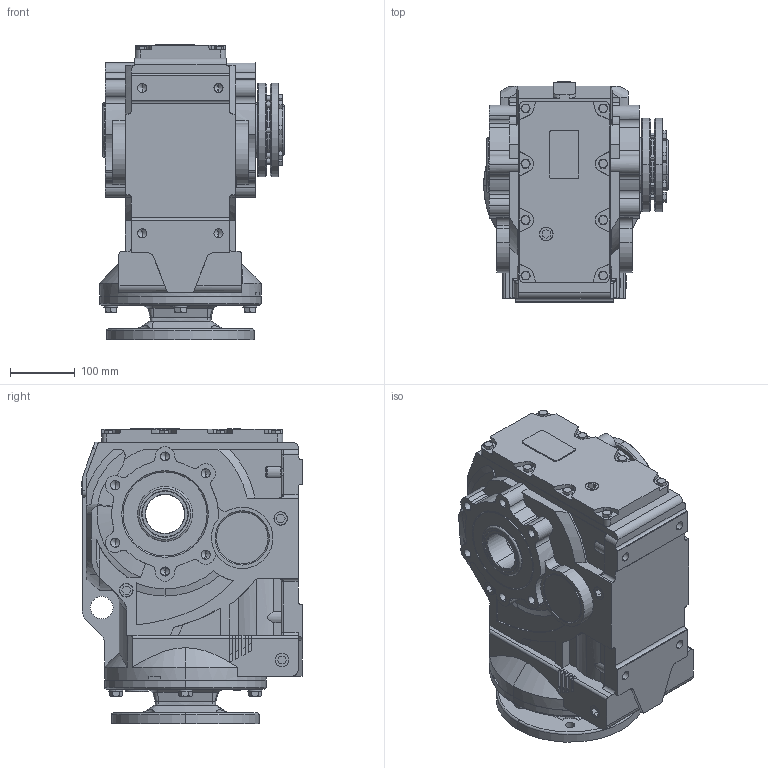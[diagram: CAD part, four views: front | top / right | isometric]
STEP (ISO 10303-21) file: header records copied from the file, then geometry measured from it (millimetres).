
FILE_DESCRIPTION (( 'STEP AP203' ), '1' );
FILE_NAME ('KAN87-182TC-A-POWER LOCK.STEP', '2020-12-04T06:15:20', ( 'Microsoft' ), ( 'Microsoft' ), 'SwSTEP 2.0', 'SolidWorks 2012', '' );
FILE_SCHEMA (( 'CONFIG_CONTROL_DESIGN' ));
Products named in the file (1): KAN87-182TC-A-POWER LOCK
Bounding box: 286 x 340.5 x 458 mm (x, y, z)
Volume: 23063548.5 mm3; surface area: 973704 mm2
Topology: 2 solids, 27 shells, 1681 faces, 4258 edges, 2700 vertices
Faces by surface type: plane 677, cylinder 487, cone 328, bspline 143, torus 46
Entity records: 62896 total; most frequent: CARTESIAN_POINT 23128, ORIENTED_EDGE 8384, DIRECTION 8016, EDGE_CURVE 4192, AXIS2_PLACEMENT_3D 2952, VERTEX_POINT 2700, LINE 2112, VECTOR 2112
